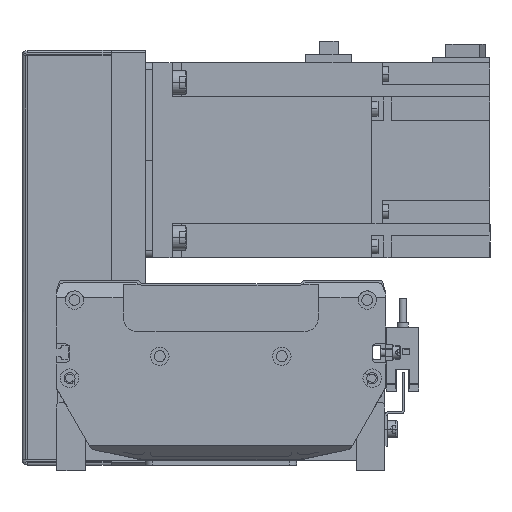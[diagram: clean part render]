
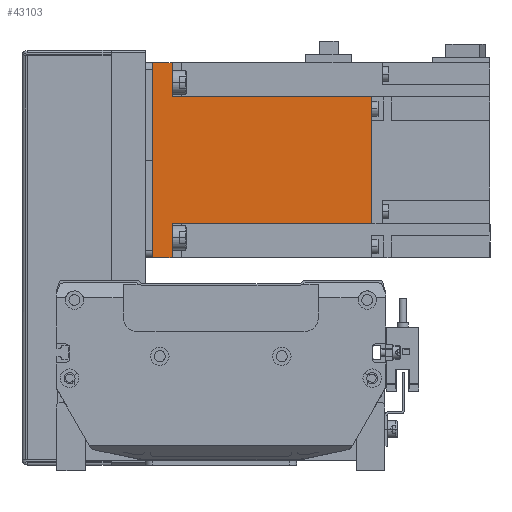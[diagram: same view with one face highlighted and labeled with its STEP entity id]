
A CAD part, front view. The second image highlights one B-rep face of the part: STEP entity #43103.
In plain terms, the highlighted planar face has unit normal (0, -1, 0) as drawn and (0, 0, -1) by its records, which use the part's own axes.
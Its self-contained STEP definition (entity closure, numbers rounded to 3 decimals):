
#117 = LINE ( 'NONE', #49513, #41548 ) ;
#739 = EDGE_LOOP ( 'NONE', ( #51781, #8756, #3515, #10533, #2192, #9867, #28881, #26081 ) ) ;
#1244 = AXIS2_PLACEMENT_3D ( 'NONE', #25954, #22089, #18393 ) ;
#1520 = EDGE_CURVE ( 'NONE', #24023, #17338, #4403, .T. ) ;
#2076 = DIRECTION ( 'NONE',  ( 0., 1., 0. ) ) ;
#2192 = ORIENTED_EDGE ( 'NONE', *, *, #27099, .F. ) ;
#3515 = ORIENTED_EDGE ( 'NONE', *, *, #34824, .T. ) ;
#4403 = LINE ( 'NONE', #49632, #45806 ) ;
#4752 = CARTESIAN_POINT ( 'NONE',  ( 0., 0., -40. ) ) ;
#6178 = DIRECTION ( 'NONE',  ( -1., 0., 0. ) ) ;
#7437 = LINE ( 'NONE', #48961, #36377 ) ;
#8180 = DIRECTION ( 'NONE',  ( 0., -1., 0. ) ) ;
#8340 = DIRECTION ( 'NONE',  ( -1., 0., 0. ) ) ;
#8756 = ORIENTED_EDGE ( 'NONE', *, *, #1520, .F. ) ;
#9867 = ORIENTED_EDGE ( 'NONE', *, *, #10232, .F. ) ;
#10232 = EDGE_CURVE ( 'NONE', #14166, #31253, #37027, .T. ) ;
#10533 = ORIENTED_EDGE ( 'NONE', *, *, #39938, .T. ) ;
#11061 = EDGE_CURVE ( 'NONE', #44018, #15073, #7437, .T. ) ;
#12161 = CARTESIAN_POINT ( 'NONE',  ( 40., 0., -40. ) ) ;
#13379 = DIRECTION ( 'NONE',  ( 0., 1., 0. ) ) ;
#13445 = CARTESIAN_POINT ( 'NONE',  ( 40., 8., -40. ) ) ;
#14023 = CARTESIAN_POINT ( 'NONE',  ( -40., 89.8, -40. ) ) ;
#14166 = VERTEX_POINT ( 'NONE', #26679 ) ;
#14903 = VECTOR ( 'NONE', #2076, 1000. ) ;
#15073 = VERTEX_POINT ( 'NONE', #30713 ) ;
#16539 = EDGE_CURVE ( 'NONE', #15073, #14166, #117, .T. ) ;
#16903 = CARTESIAN_POINT ( 'NONE',  ( 40., 8., -40. ) ) ;
#17338 = VERTEX_POINT ( 'NONE', #16903 ) ;
#18211 = PLANE ( 'NONE',  #1244 ) ;
#18393 = DIRECTION ( 'NONE',  ( 1., 0., 0. ) ) ;
#22089 = DIRECTION ( 'NONE',  ( 0., 0., 1. ) ) ;
#22223 = LINE ( 'NONE', #4752, #35406 ) ;
#24023 = VERTEX_POINT ( 'NONE', #12161 ) ;
#25026 = VERTEX_POINT ( 'NONE', #36918 ) ;
#25168 = CARTESIAN_POINT ( 'NONE',  ( 40., 8., -40. ) ) ;
#25460 = DIRECTION ( 'NONE',  ( 0., 1., 0. ) ) ;
#25954 = CARTESIAN_POINT ( 'NONE',  ( 40., 89.8, -40. ) ) ;
#26081 = ORIENTED_EDGE ( 'NONE', *, *, #11061, .F. ) ;
#26347 = VECTOR ( 'NONE', #8180, 1000. ) ;
#26679 = CARTESIAN_POINT ( 'NONE',  ( -25.95, 89.8, -40. ) ) ;
#26992 = LINE ( 'NONE', #25168, #44537 ) ;
#27099 = EDGE_CURVE ( 'NONE', #31253, #41076, #26992, .T. ) ;
#27125 = CARTESIAN_POINT ( 'NONE',  ( 25.95, 8., -40. ) ) ;
#28881 = ORIENTED_EDGE ( 'NONE', *, *, #16539, .F. ) ;
#29470 = DIRECTION ( 'NONE',  ( -1., 0., 0. ) ) ;
#30713 = CARTESIAN_POINT ( 'NONE',  ( 25.95, 89.8, -40. ) ) ;
#31063 = VECTOR ( 'NONE', #33625, 1000. ) ;
#31158 = EDGE_CURVE ( 'NONE', #17338, #44018, #41111, .T. ) ;
#31253 = VERTEX_POINT ( 'NONE', #34498 ) ;
#33625 = DIRECTION ( 'NONE',  ( -1., 0., 0. ) ) ;
#34498 = CARTESIAN_POINT ( 'NONE',  ( -25.95, 8., -40. ) ) ;
#34824 = EDGE_CURVE ( 'NONE', #24023, #25026, #22223, .T. ) ;
#35406 = VECTOR ( 'NONE', #29470, 1000. ) ;
#36377 = VECTOR ( 'NONE', #13379, 1000. ) ;
#36918 = CARTESIAN_POINT ( 'NONE',  ( -40., 0., -40. ) ) ;
#37027 = LINE ( 'NONE', #44129, #26347 ) ;
#37712 = FACE_OUTER_BOUND ( 'NONE', #739, .T. ) ;
#39938 = EDGE_CURVE ( 'NONE', #25026, #41076, #51969, .T. ) ;
#41076 = VERTEX_POINT ( 'NONE', #46142 ) ;
#41111 = LINE ( 'NONE', #13445, #31063 ) ;
#41548 = VECTOR ( 'NONE', #6178, 1000. ) ;
#43103 = ADVANCED_FACE ( 'NONE', ( #37712 ), #18211, .F. ) ;
#44018 = VERTEX_POINT ( 'NONE', #27125 ) ;
#44129 = CARTESIAN_POINT ( 'NONE',  ( -25.95, 89.8, -40. ) ) ;
#44537 = VECTOR ( 'NONE', #8340, 1000. ) ;
#45806 = VECTOR ( 'NONE', #25460, 1000. ) ;
#46142 = CARTESIAN_POINT ( 'NONE',  ( -40., 8., -40. ) ) ;
#48961 = CARTESIAN_POINT ( 'NONE',  ( 25.95, 89.8, -40. ) ) ;
#49513 = CARTESIAN_POINT ( 'NONE',  ( 40., 89.8, -40. ) ) ;
#49632 = CARTESIAN_POINT ( 'NONE',  ( 40., 89.8, -40. ) ) ;
#51781 = ORIENTED_EDGE ( 'NONE', *, *, #31158, .F. ) ;
#51969 = LINE ( 'NONE', #14023, #14903 ) ;
